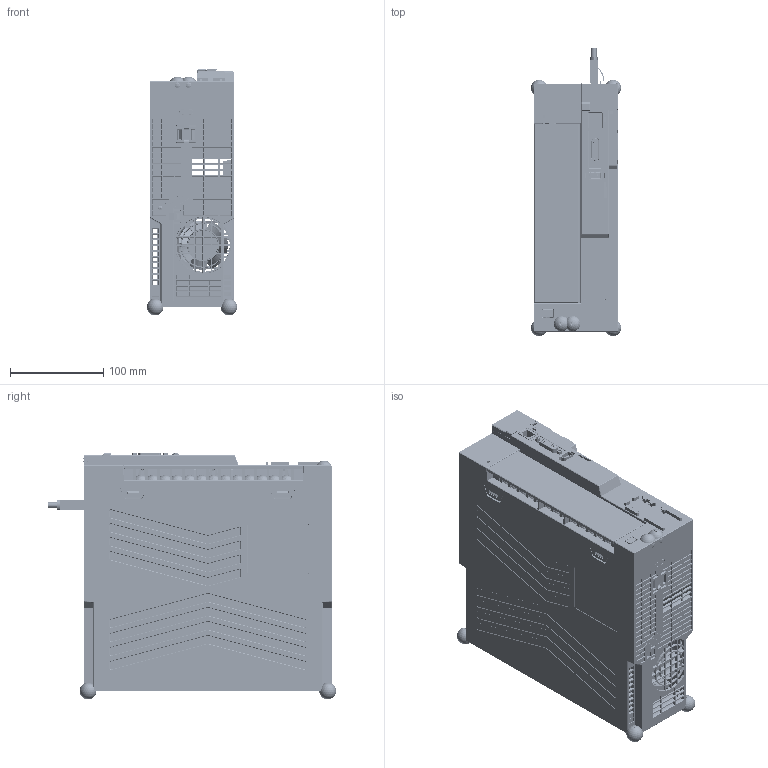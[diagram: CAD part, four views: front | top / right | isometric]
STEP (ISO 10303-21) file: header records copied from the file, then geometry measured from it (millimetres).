
FILE_DESCRIPTION((''),'2;1');
FILE_NAME('380V75A_700S_NOSTO_SMPLF_STTS1','2023-06-07T16:19:58',('Cyclone_Aero15X'),(''),'CREO PARAMETRIC BY PTC INC, 2019080','CREO PARAMETRIC BY PTC INC, 2019080','');
FILE_SCHEMA(('CONFIG_CONTROL_DESIGN'));
Products named in the file (1): 380V75A_700S_NOSTO_SMPLF_STTS1
Bounding box: 96.93 x 308.83 x 264.65 mm (x, y, z)
Surface area: 843885.7 mm2 (no closed solid volume)
Topology: 0 solids, 0 shells, 8190 faces, 45229 edges, 45044 vertices
Faces by surface type: plane 6309, cylinder 1271, cone 363, torus 100, sphere 85, bspline 58, extrusion 4
Entity records: 693334 total; most frequent: CARTESIAN_POINT 171915, DIRECTION 98448, TRIMMED_CURVE 78292, VECTOR 74400, LINE 74396, DEFINITIONAL_REPRESENTATION 44909, PCURVE 44909, COMPOSITE_CURVE_SEGMENT 44909
